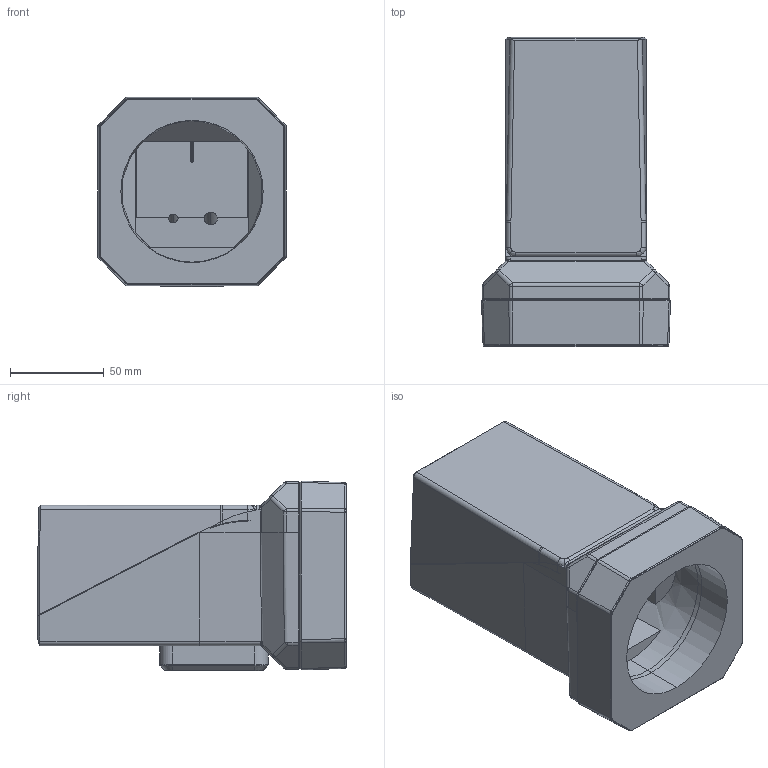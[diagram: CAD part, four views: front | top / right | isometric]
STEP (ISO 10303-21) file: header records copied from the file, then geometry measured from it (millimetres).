
FILE_DESCRIPTION (( 'STEP AP214' ), '1' );
FILE_NAME ('GET_CAM_XL_Housing_Outer_Topassy_0_2022-11-11.STEP', '2022-11-11T14:46:22', ( '' ), ( '' ), 'SwSTEP 2.0', 'SolidWorks 2020', '' );
FILE_SCHEMA (( 'AUTOMOTIVE_DESIGN' ));
Length unit declared in the file: millimetre
Products named in the file (4): GET_CAM_XL_Housing_FrontRing_Outer_IM; GET_CAM_XL_Housing_Main_Outer_IM; GET_CAM_XL_Housing_Cap_Outer_IM; GET_CAM_XL_Housing_Outer_Topassy_0_2022-11-11
Assembly tree (3 placements, depth 2):
  GET_CAM_XL_Housing_Outer_Topassy_0_2022-11-11
    GET_CAM_XL_Housing_Main_Outer_IM
    GET_CAM_XL_Housing_Cap_Outer_IM
    GET_CAM_XL_Housing_FrontRing_Outer_IM
Bounding box: 100.94 x 165.2 x 101.47 mm (x, y, z)
Volume: 472156.2 mm3; surface area: 131867.7 mm2
Topology: 3 solids, 3 shells, 414 faces, 985 edges, 590 vertices
Faces by surface type: cylinder 160, plane 134, bspline 78, torus 22, sphere 12, cone 8
Entity records: 14036 total; most frequent: CARTESIAN_POINT 5215, ORIENTED_EDGE 1970, DIRECTION 1649, EDGE_CURVE 985, AXIS2_PLACEMENT_3D 612, VERTEX_POINT 590, EDGE_LOOP 431, LINE 425
